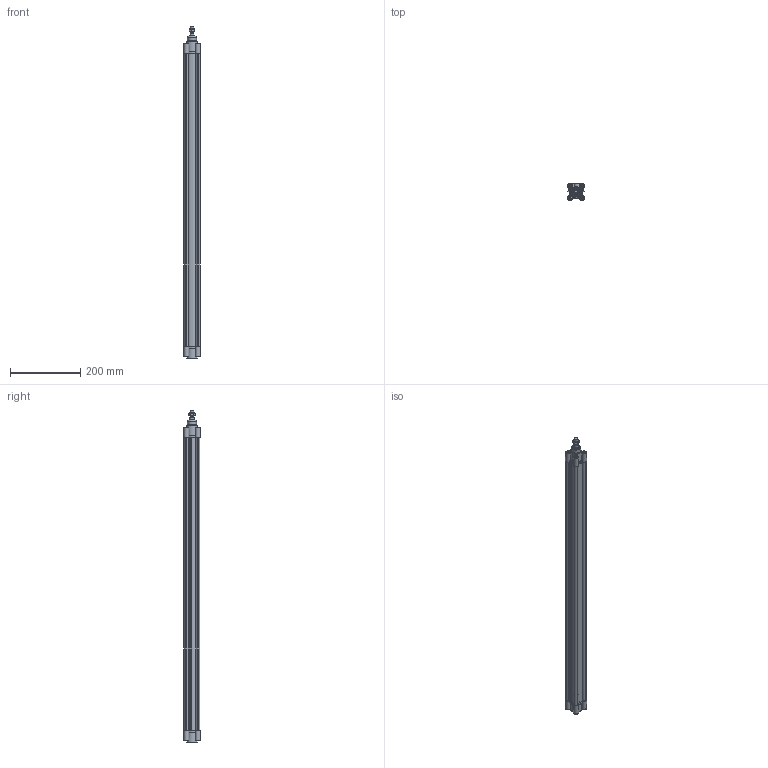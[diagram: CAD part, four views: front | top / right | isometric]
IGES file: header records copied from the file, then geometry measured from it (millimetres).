
Global section: file name: No Iges File Name specified; native system: Autodesk Inventor 2012; preprocessor: AutoDesk Inventor Iges Exporter R2012; author: pilonfr1; date: 20120128.095107; units: millimetre
Bounding box: 47 x 47 x 946.5 mm (x, y, z)
Volume: 689281 mm3; surface area: 463269.3 mm2
Topology: 5 solids, 5 shells, 316 faces, 788 edges, 522 vertices
Faces by surface type: plane 200, cylinder 54, revolution 39, cone 22, torus 1
Full cylindrical faces by diameter (mm): 8.8 x1, 10 x9, 11.5 x1, 12 x1, 26 x1, 30 x2, 32 x3
